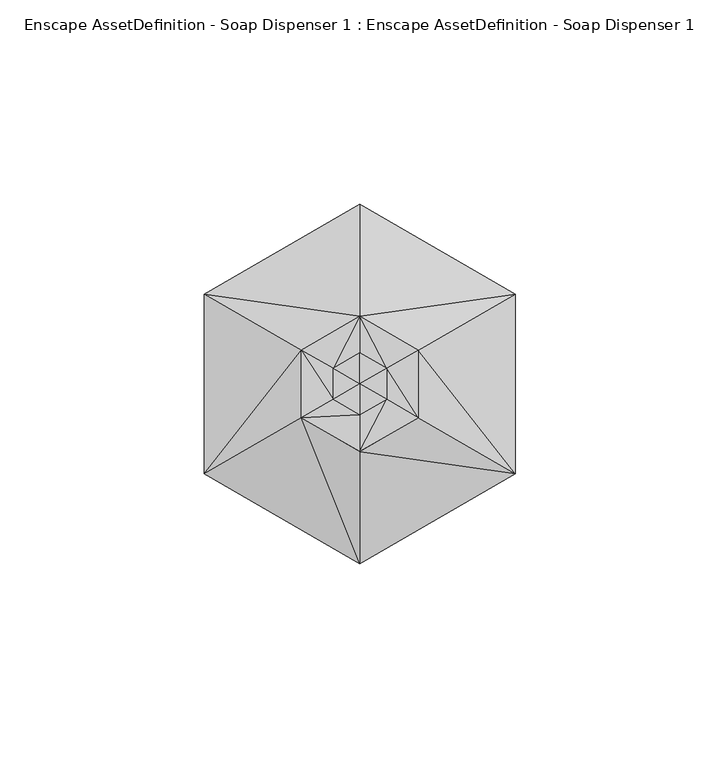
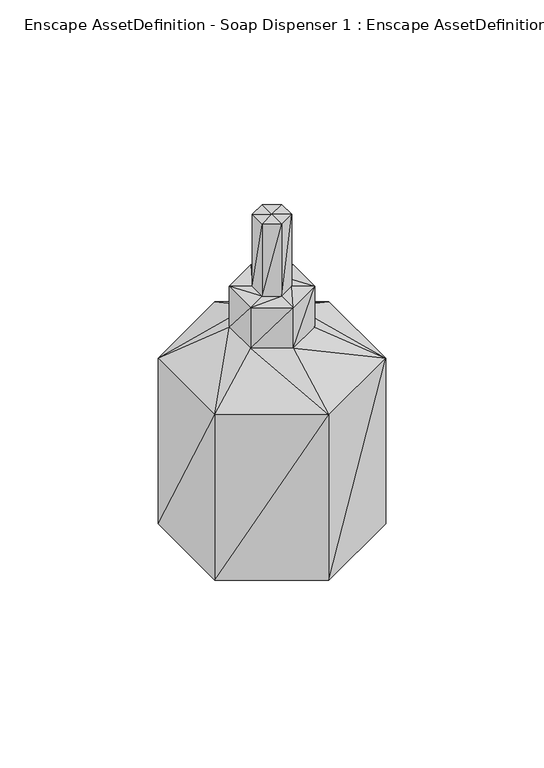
"""IFC4 building model written with IfcOpenShell, lengths in millimetres: geographic element geometry, Enscape AssetDefinition - Soap Dispenser 1 : Enscape AssetDefinition - Soap Dispenser 1."""

from ifc_helpers import new_model, si_unit, origin, place, context, project, spatial, faceted_brep, source, transform, mapped, element, save


def enscape_assetdefinition_soap_dispenser_1_enscape_4bf6a539(model_context):
    return source(origin(), model_context, "Body", "Brep", [
        faceted_brep([(17.1154477, 9.8816128, 0.0), (38.0708501, 21.9802056, 13.9929177), (17.1154477, -9.8816128, 0.0), (38.0708501, -21.9802056, 13.9929177), (0.0, -19.7632257, 0.0), (0.0, 0.0, 0.0), (0.0, 19.7632257, 0.0), (-17.1154477, -9.8816128, 0.0), (-17.1154477, 9.8816128, 0.0), (0.0, -43.9604297, 13.9929177), (38.0708501, -21.9802056, 92.0929164), (38.0708501, 21.9802056, 92.0929164), (0.0, -43.9604297, 92.0929164), (-38.0708501, -21.9802242, 13.9929177), (-38.0708501, 21.9802056, 13.9929177), (-38.0708501, -21.9802242, 92.0929164), (0.0, -16.52514, 106.7366749), (-14.3111842, -8.26257, 106.7366749), (-14.3111842, 8.26257, 106.7366749), (-38.0708501, 21.9802056, 92.0929164), (0.0, 43.9604297, 13.9929177), (0.0, 16.52514, 106.7366749), (0.0, 43.9604297, 92.0929164), (-14.3111842, -8.26257, 125.9362549), (-14.3111842, 8.26257, 125.9362549), (0.0, 16.52514, 125.9362549), (14.3112037, 8.26257, 106.7366749), (14.3112037, 8.26257, 125.9362549), (14.3112037, -8.26257, 106.7366749), (14.3112037, -8.26257, 125.9362549), (6.5731104, 3.7949937, 125.9362549), (6.5731104, -3.7949937, 125.9362549), (0.0, -16.52514, 125.9362549), (0.0, -7.5899679, 125.9362549), (6.5731104, -3.7949937, 159.7795933), (6.5731104, 3.7949937, 159.7795933), (0.0, -7.5899679, 159.7795933), (-6.5731104, -3.7949937, 125.9362549), (-6.5731104, -3.7949937, 159.7795933), (-6.5731104, 3.7949937, 125.9362549), (0.0, 0.0, 159.7796082), (0.0, 7.5899679, 159.7795933), (-6.5731104, 3.7949937, 159.7795933), (0.0, 7.5899679, 125.9362549)], [[[0, 1, 2]], [[2, 3, 4]], [[5, 0, 2]], [[5, 2, 4]], [[1, 3, 2]], [[5, 6, 0]], [[1, 0, 6]], [[5, 4, 7]], [[5, 8, 6]], [[5, 7, 8]], [[4, 9, 7]], [[3, 9, 4]], [[3, 10, 9]], [[1, 11, 3]], [[11, 10, 3]], [[9, 12, 13]], [[9, 13, 7]], [[10, 12, 9]], [[7, 13, 8]], [[8, 14, 6]], [[13, 14, 8]], [[13, 15, 14]], [[12, 15, 13]], [[16, 17, 12]], [[17, 15, 12]], [[16, 12, 10]], [[17, 18, 15]], [[15, 19, 14]], [[18, 19, 15]], [[14, 19, 20]], [[14, 20, 6]], [[18, 21, 19]], [[19, 22, 20]], [[21, 22, 19]], [[17, 23, 18]], [[18, 24, 21]], [[23, 24, 18]], [[22, 21, 11]], [[21, 25, 26]], [[21, 26, 11]], [[24, 25, 21]], [[20, 22, 1]], [[22, 11, 1]], [[20, 1, 6]], [[11, 26, 10]], [[26, 27, 28]], [[26, 28, 10]], [[25, 27, 26]], [[28, 16, 10]], [[28, 29, 16]], [[27, 29, 28]], [[27, 30, 29]], [[30, 27, 25]], [[29, 31, 32]], [[29, 32, 16]], [[30, 31, 29]], [[16, 32, 17]], [[32, 33, 23]], [[32, 23, 17]], [[31, 33, 32]], [[31, 34, 33]], [[30, 35, 31]], [[35, 34, 31]], [[33, 36, 37]], [[33, 37, 23]], [[34, 36, 33]], [[23, 37, 24]], [[37, 38, 39]], [[37, 39, 24]], [[36, 38, 37]], [[40, 38, 36]], [[40, 36, 34]], [[40, 34, 35]], [[40, 35, 41]], [[41, 35, 30]], [[40, 41, 42]], [[40, 42, 38]], [[38, 42, 39]], [[24, 39, 25]], [[39, 42, 43]], [[39, 43, 25]], [[42, 41, 43]], [[43, 41, 30]], [[43, 30, 25]]]),
    ])


if __name__ == "__main__":
    model = new_model("IFC4")
    model_context = context("Model", 3, world=origin())
    ifc_project = project(units=[si_unit("LENGTHUNIT", "METRE", prefix="MILLI")], contexts=[model_context])
    site = spatial("IfcSite", under=ifc_project)
    building = spatial("IfcBuilding", under=site)
    placement = place(None, origin())
    enscape_assetdefinition_soap_dispenser_1_enscape_shape = enscape_assetdefinition_soap_dispenser_1_enscape_4bf6a539(model_context)
    element("IfcGeographicElement", 1, ObjectType="Enscape AssetDefinition - Soap Dispenser 1 : Enscape AssetDefinition - Soap Dispenser 1", at=placement, inside=building, context=model_context, shape_type="MappedRepresentation", body=[
        mapped(enscape_assetdefinition_soap_dispenser_1_enscape_shape, transform((0.0, 0.0, 0.0), x_axis=(1.0, 0.0, 0.0), y_axis=(0.0, 1.0, 0.0), z_axis=(0.0, 0.0, 1.0))),
    ])
    save(model, "model.ifc")
